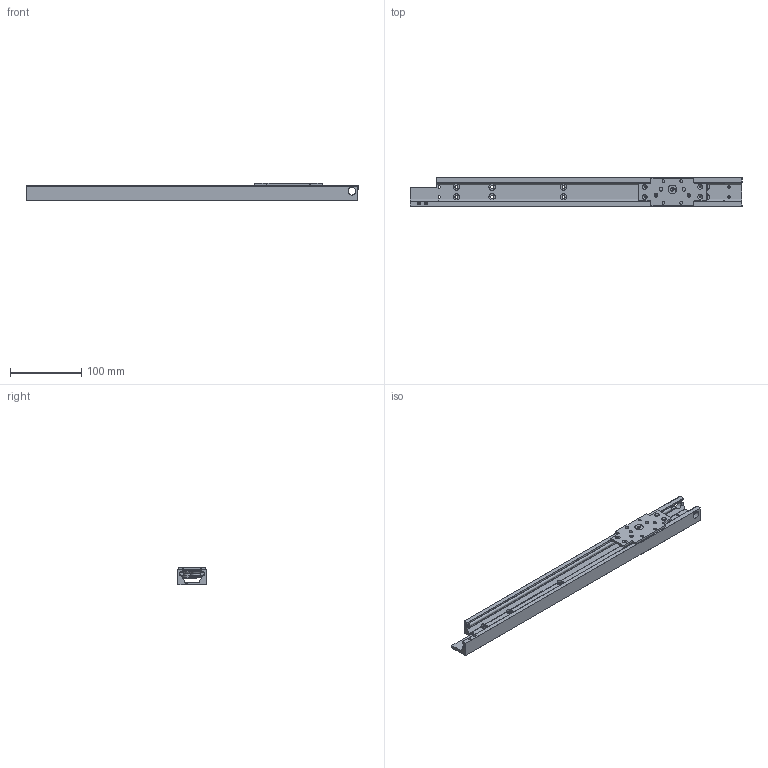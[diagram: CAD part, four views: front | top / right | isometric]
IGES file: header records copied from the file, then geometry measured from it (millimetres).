
Global section: file name:  ; native system: Kubotek KeyCreator; preprocessor: KCM Version 1.1.28; author: KeyCreator•p{ž; organization: Self; date: 20161130.232704; units: millimetre
Bounding box: 465 x 40 x 25.03 mm (x, y, z)
Surface area: 101276.2 mm2 (no closed solid volume)
Topology: 0 solids, 0 shells, 326 faces, 1652 edges, 1526 vertices
Faces by surface type: revolution 191, plane 116, bspline 19
